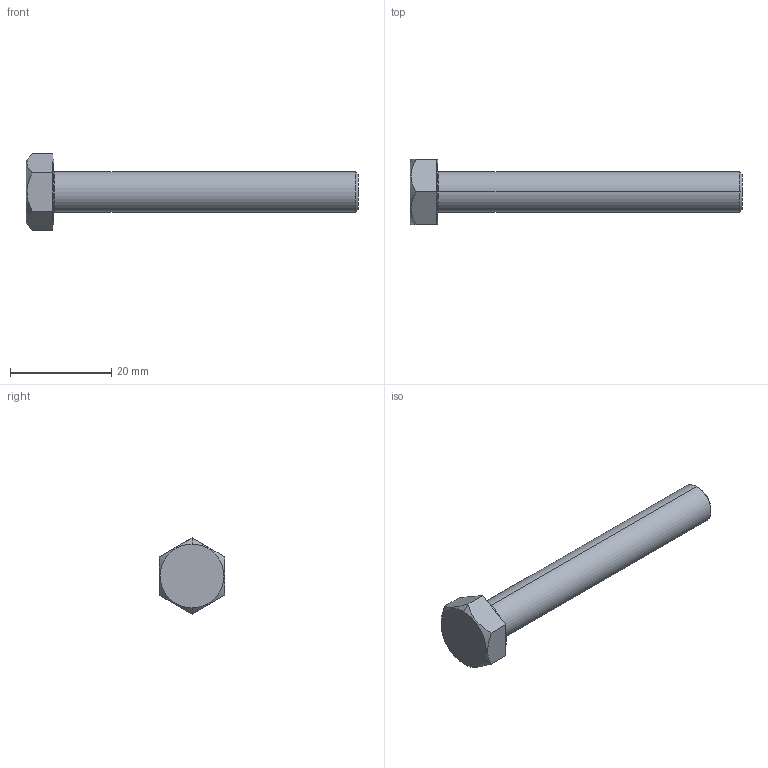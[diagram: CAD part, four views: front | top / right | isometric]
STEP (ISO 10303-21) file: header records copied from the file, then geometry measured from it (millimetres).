
FILE_DESCRIPTION (( 'STEP AP203' ), '1' );
FILE_NAME ('LGN-TD-M8x60.STEP', '2026-08-14T04:31:27', ( '' ), ( '' ), 'SwSTEP 2.0', 'SolidWorks 2020', '' );
FILE_SCHEMA (( 'CONFIG_CONTROL_DESIGN' ));
Length unit declared in the file: millimetre
Products named in the file (1): LGN-TD-M8x60
Bounding box: 65.5 x 13 x 15.01 mm (x, y, z)
Volume: 3807.8 mm3; surface area: 2022.3 mm2
Topology: 1 solids, 1 shells, 25 faces, 54 edges, 32 vertices
Faces by surface type: plane 15, cone 4, cylinder 4, torus 2
Entity records: 809 total; most frequent: CARTESIAN_POINT 182, DIRECTION 122, ORIENTED_EDGE 108, EDGE_CURVE 54, AXIS2_PLACEMENT_3D 48, VERTEX_POINT 32, VECTOR 26, EDGE_LOOP 26
